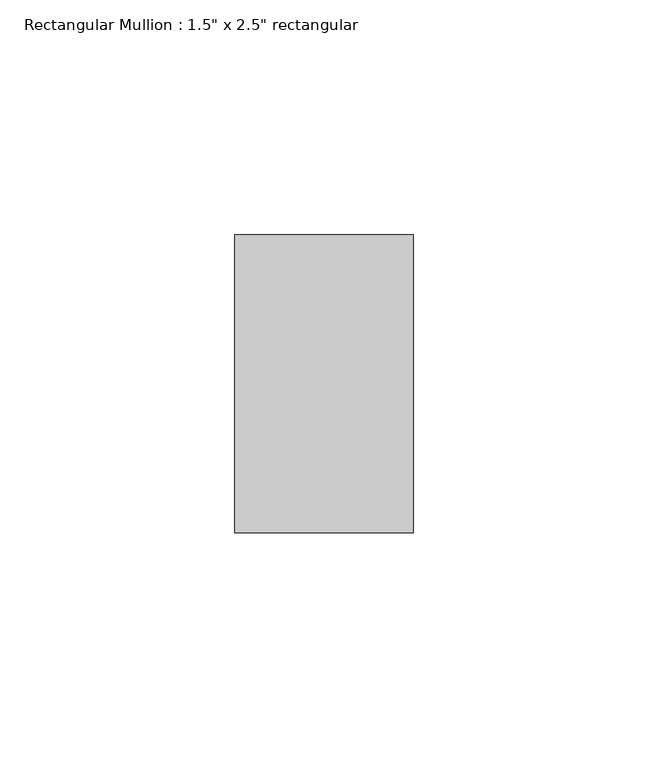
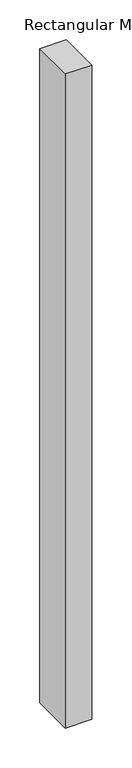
"""IFC4 building model written with IfcOpenShell, lengths in millimetres: member geometry."""

from ifc_helpers import new_model, si_unit, frame, origin, place, context, project, spatial, polyline, outline, extrude, source, transform, mapped, element, save


def member_ceac087d(model_context):
    return source(origin(), model_context, "Body", "SweptSolid", [
        extrude(outline(polyline([(19.05, 31.75), (19.05, -31.75), (-19.05, -31.75), (-19.05, 31.75), (19.05, 31.75)])), frame((0.0, 0.0, -999.6241248), z_axis=(0.0, 0.0, 1.0), x_axis=(1.0, 0.0, 0.0)), (0.0, 0.0, 1.0), 999.6241248),
    ])


if __name__ == "__main__":
    model = new_model("IFC4")
    model_context = context("Model", 3, world=origin())
    ifc_project = project(units=[si_unit("LENGTHUNIT", "METRE", prefix="MILLI")], contexts=[model_context])
    site = spatial("IfcSite", under=ifc_project)
    building = spatial("IfcBuilding", under=site)
    placement = place(None, origin())
    member_shape = member_ceac087d(model_context)
    element("IfcMember", 1, ObjectType="Rectangular Mullion : 1.5\" x 2.5\" rectangular", at=placement, inside=building, context=model_context, shape_type="MappedRepresentation", body=[
        mapped(member_shape, transform((0.0, 0.0, 0.0), x_axis=(1.0, 0.0, 0.0), y_axis=(0.0, 1.0, 0.0), z_axis=(0.0, 0.0, 1.0))),
    ])
    save(model, "model.ifc")
